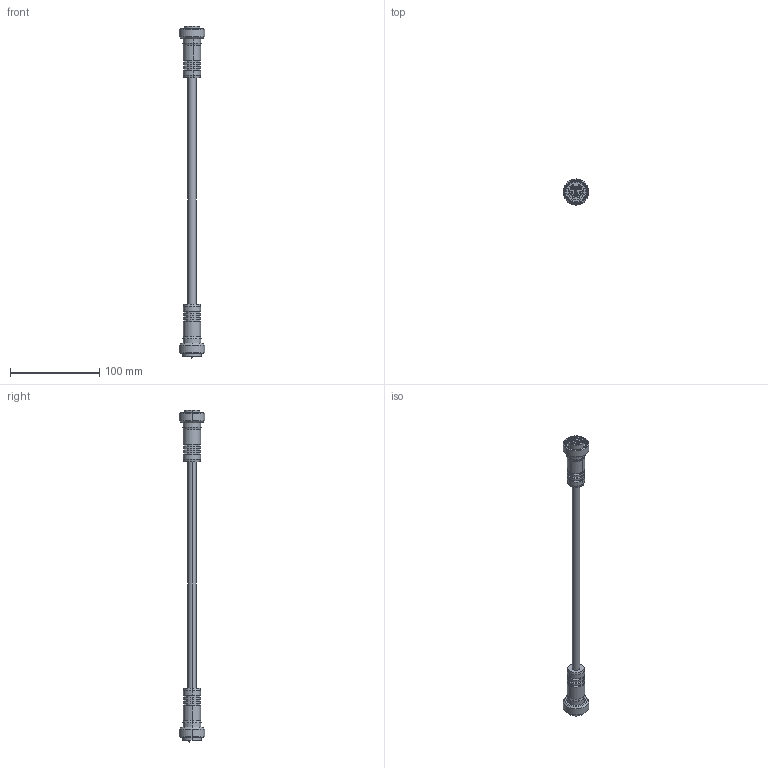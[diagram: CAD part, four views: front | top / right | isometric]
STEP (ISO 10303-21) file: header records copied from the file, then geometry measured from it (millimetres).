
FILE_DESCRIPTION (( 'STEP AP214' ), '1' );
FILE_NAME ('MIN-8MFPX-ZZ.STEP', '2011-03-19T20:27:06', ( 'Bruce' ), ( 'HP' ), 'SwSTEP 2.0', 'SolidWorks 2011', '' );
FILE_SCHEMA (( 'AUTOMOTIVE_DESIGN' ));
Length unit declared in the file: millimetre
Products named in the file (1): MIN-8MFPX-ZZ
Bounding box: 28.57 x 28.57 x 372.02 mm (x, y, z)
Volume: 52200.2 mm3; surface area: 24322.7 mm2
Topology: 6 solids, 6 shells, 562 faces, 1410 edges, 908 vertices
Faces by surface type: plane 232, cylinder 140, bspline 114, cone 60, sphere 16
Entity records: 30296 total; most frequent: CARTESIAN_POINT 11368, ORIENTED_EDGE 2788, DIRECTION 2341, EDGE_CURVE 1394, VERTEX_POINT 908, LINE 795, VECTOR 795, AXIS2_PLACEMENT_3D 773
